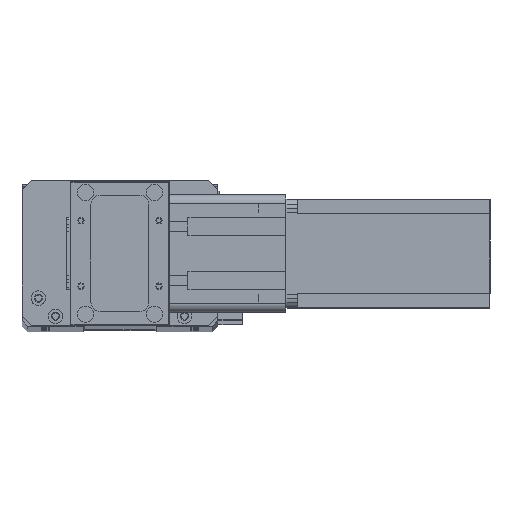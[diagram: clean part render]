
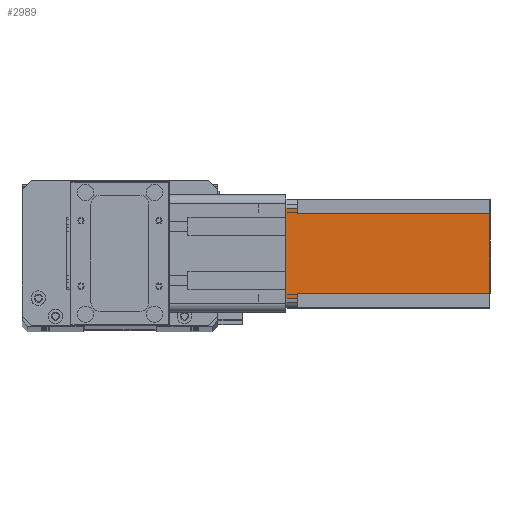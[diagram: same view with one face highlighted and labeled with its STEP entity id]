
A CAD part, top view. The second image highlights one B-rep face of the part: STEP entity #2989.
In plain terms, the highlighted planar face has unit normal (0, 0, 1) as drawn and (0, 1, 0) by its records, which use the part's own axes.
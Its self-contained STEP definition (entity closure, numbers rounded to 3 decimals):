
#828 = CARTESIAN_POINT ( 'NONE',  ( 55., 60., -6.5 ) ) ;
#1607 = VERTEX_POINT ( 'NONE', #7331 ) ;
#2524 = DIRECTION ( 'NONE',  ( 0., 0., 1. ) ) ;
#2986 = LINE ( 'NONE', #11619, #8154 ) ;
#2989 = ADVANCED_FACE ( 'NONE', ( #3347 ), #12999, .T. ) ;
#3051 = CARTESIAN_POINT ( 'NONE',  ( 0., 60., -112.5 ) ) ;
#3347 = FACE_OUTER_BOUND ( 'NONE', #21311, .T. ) ;
#3413 = LINE ( 'NONE', #4514, #26161 ) ;
#4273 = ORIENTED_EDGE ( 'NONE', *, *, #15974, .T. ) ;
#4514 = CARTESIAN_POINT ( 'NONE',  ( 0., 60., 0. ) ) ;
#4855 = VERTEX_POINT ( 'NONE', #4893 ) ;
#4893 = CARTESIAN_POINT ( 'NONE',  ( 52., 60., -112.5 ) ) ;
#4898 = LINE ( 'NONE', #3051, #26972 ) ;
#6288 = DIRECTION ( 'NONE',  ( 1., 0., 0. ) ) ;
#6433 = DIRECTION ( 'NONE',  ( 0., 0., 1. ) ) ;
#7331 = CARTESIAN_POINT ( 'NONE',  ( 55., 60., 0. ) ) ;
#7393 = DIRECTION ( 'NONE',  ( -1., 0., 0. ) ) ;
#8154 = VECTOR ( 'NONE', #9379, 1000. ) ;
#8563 = CARTESIAN_POINT ( 'NONE',  ( 0., 60., -112.5 ) ) ;
#8818 = VERTEX_POINT ( 'NONE', #9925 ) ;
#9379 = DIRECTION ( 'NONE',  ( 0., 0., -1. ) ) ;
#9395 = CARTESIAN_POINT ( 'NONE',  ( 5., 60., -6.5 ) ) ;
#9925 = CARTESIAN_POINT ( 'NONE',  ( 52., 60., -6.5 ) ) ;
#10248 = VERTEX_POINT ( 'NONE', #23812 ) ;
#10390 = DIRECTION ( 'NONE',  ( 0., 0., 1. ) ) ;
#10402 = EDGE_CURVE ( 'NONE', #1607, #10248, #3413, .T. ) ;
#10546 = CARTESIAN_POINT ( 'NONE',  ( 55., 60., -112.5 ) ) ;
#10645 = CARTESIAN_POINT ( 'NONE',  ( 52., 60., -6.5 ) ) ;
#10876 = VECTOR ( 'NONE', #10390, 1000. ) ;
#11170 = VECTOR ( 'NONE', #6288, 1000. ) ;
#11619 = CARTESIAN_POINT ( 'NONE',  ( 8., 60., -112.5 ) ) ;
#11664 = EDGE_CURVE ( 'NONE', #20077, #19002, #2986, .T. ) ;
#12042 = ORIENTED_EDGE ( 'NONE', *, *, #28646, .T. ) ;
#12533 = CARTESIAN_POINT ( 'NONE',  ( 8., 60., -6.5 ) ) ;
#12546 = EDGE_CURVE ( 'NONE', #4855, #8818, #17461, .T. ) ;
#12762 = DIRECTION ( 'NONE',  ( 0., 0., -1. ) ) ;
#12999 = PLANE ( 'NONE',  #23435 ) ;
#13002 = CARTESIAN_POINT ( 'NONE',  ( 8., 60., -112.5 ) ) ;
#13274 = EDGE_CURVE ( 'NONE', #8818, #25292, #17070, .T. ) ;
#13553 = LINE ( 'NONE', #18724, #25967 ) ;
#14959 = ORIENTED_EDGE ( 'NONE', *, *, #13274, .F. ) ;
#15974 = EDGE_CURVE ( 'NONE', #26805, #10248, #20999, .T. ) ;
#17070 = LINE ( 'NONE', #10645, #11170 ) ;
#17461 = LINE ( 'NONE', #21422, #10876 ) ;
#18005 = CARTESIAN_POINT ( 'NONE',  ( 5., 60., -112.5 ) ) ;
#18034 = ORIENTED_EDGE ( 'NONE', *, *, #12546, .F. ) ;
#18153 = LINE ( 'NONE', #10546, #23315 ) ;
#18724 = CARTESIAN_POINT ( 'NONE',  ( 8., 60., -6.5 ) ) ;
#19002 = VERTEX_POINT ( 'NONE', #13002 ) ;
#19564 = ORIENTED_EDGE ( 'NONE', *, *, #26256, .T. ) ;
#19676 = DIRECTION ( 'NONE',  ( 0., 1., 0. ) ) ;
#19967 = DIRECTION ( 'NONE',  ( -1., 0., 0. ) ) ;
#20077 = VERTEX_POINT ( 'NONE', #12533 ) ;
#20112 = ORIENTED_EDGE ( 'NONE', *, *, #11664, .F. ) ;
#20556 = ORIENTED_EDGE ( 'NONE', *, *, #10402, .F. ) ;
#20999 = LINE ( 'NONE', #18005, #26118 ) ;
#21311 = EDGE_LOOP ( 'NONE', ( #20556, #27096, #14959, #18034, #12042, #20112, #19564, #4273 ) ) ;
#21422 = CARTESIAN_POINT ( 'NONE',  ( 52., 60., -112.5 ) ) ;
#23062 = DIRECTION ( 'NONE',  ( -1., 0., 0. ) ) ;
#23315 = VECTOR ( 'NONE', #12762, 1000. ) ;
#23435 = AXIS2_PLACEMENT_3D ( 'NONE', #8563, #19676, #6433 ) ;
#23812 = CARTESIAN_POINT ( 'NONE',  ( 5., 60., 0. ) ) ;
#24893 = EDGE_CURVE ( 'NONE', #1607, #25292, #18153, .T. ) ;
#25292 = VERTEX_POINT ( 'NONE', #828 ) ;
#25967 = VECTOR ( 'NONE', #23062, 1000. ) ;
#26118 = VECTOR ( 'NONE', #2524, 1000. ) ;
#26161 = VECTOR ( 'NONE', #19967, 1000. ) ;
#26256 = EDGE_CURVE ( 'NONE', #20077, #26805, #13553, .T. ) ;
#26805 = VERTEX_POINT ( 'NONE', #9395 ) ;
#26972 = VECTOR ( 'NONE', #7393, 1000. ) ;
#27096 = ORIENTED_EDGE ( 'NONE', *, *, #24893, .T. ) ;
#28646 = EDGE_CURVE ( 'NONE', #4855, #19002, #4898, .T. ) ;
